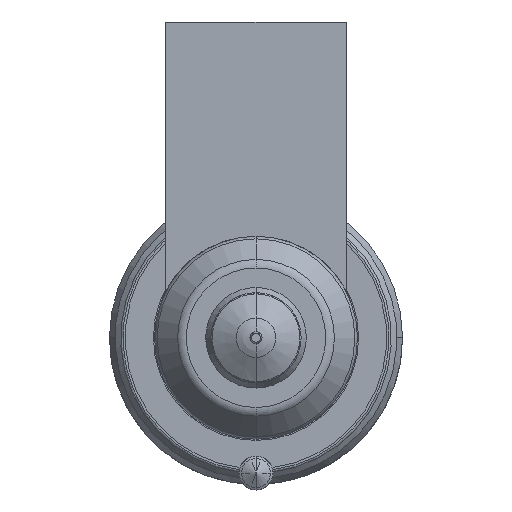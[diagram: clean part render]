
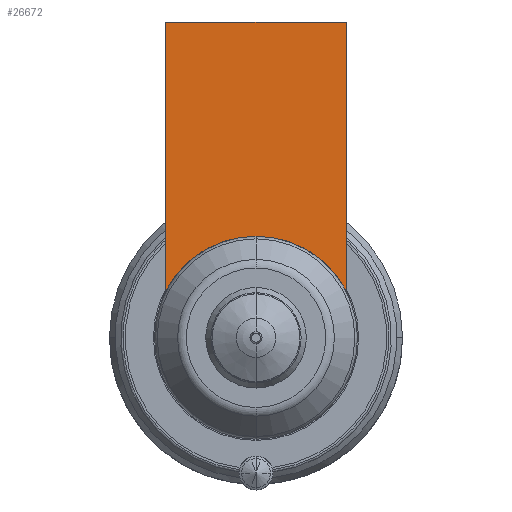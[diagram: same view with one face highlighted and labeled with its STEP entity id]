
A CAD part, front view. The second image highlights one B-rep face of the part: STEP entity #26672.
In plain terms, the highlighted planar face has unit normal (0, -1, 0).
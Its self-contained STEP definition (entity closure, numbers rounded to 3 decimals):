
#25785=DIRECTION('',(1.,0.,0.));
#25786=VECTOR('',#25785,16.);
#25787=CARTESIAN_POINT('',(-8.,-54.,28.));
#25788=LINE('',#25787,#25786);
#25793=CARTESIAN_POINT('',(0.,-54.,0.));
#25794=DIRECTION('',(0.,-1.,0.));
#25795=DIRECTION('',(0.889,0.,0.458));
#25796=AXIS2_PLACEMENT_3D('',#25793,#25794,#25795);
#25801=CARTESIAN_POINT('',(0.,-54.,0.));
#25802=DIRECTION('',(0.,-1.,0.));
#25803=DIRECTION('',(0.,0.,1.));
#25804=AXIS2_PLACEMENT_3D('',#25801,#25802,#25803);
#25830=DIRECTION('',(0.,0.,-1.));
#25831=VECTOR('',#25830,23.877);
#25832=CARTESIAN_POINT('',(-8.,-54.,28.));
#25833=LINE('',#25832,#25831);
#26516=DIRECTION('',(0.,0.,-1.));
#26517=VECTOR('',#26516,23.877);
#26518=CARTESIAN_POINT('',(8.,-54.,28.));
#26519=LINE('',#26518,#26517);
#26569=CARTESIAN_POINT('',(-8.,-54.,28.));
#26570=VERTEX_POINT('',#26569);
#26575=CARTESIAN_POINT('',(8.,-54.,28.));
#26576=VERTEX_POINT('',#26575);
#26579=CARTESIAN_POINT('',(-8.,-54.,4.123));
#26580=VERTEX_POINT('',#26579);
#26583=CARTESIAN_POINT('',(8.,-54.,4.123));
#26584=VERTEX_POINT('',#26583);
#26653=CARTESIAN_POINT('',(0.,-54.,9.));
#26654=VERTEX_POINT('',#26653);
#26655=CARTESIAN_POINT('',(0.,-54.,9.));
#26656=DIRECTION('',(0.,1.,0.));
#26657=DIRECTION('',(0.,0.,-1.));
#26658=AXIS2_PLACEMENT_3D('',#26655,#26656,#26657);
#26659=PLANE('',#26658);
#26661=ORIENTED_EDGE('',*,*,#26660,.F.);
#26663=ORIENTED_EDGE('',*,*,#26662,.T.);
#26665=ORIENTED_EDGE('',*,*,#26664,.T.);
#26667=ORIENTED_EDGE('',*,*,#26666,.T.);
#26669=ORIENTED_EDGE('',*,*,#26668,.T.);
#26670=EDGE_LOOP('',(#26661,#26663,#26665,#26667,#26669));
#26671=FACE_OUTER_BOUND('',#26670,.F.);
#26672=ADVANCED_FACE('',(#26671),#26659,.F.);
#25797=CIRCLE('',#25796,9.);
#25805=CIRCLE('',#25804,9.);
#26660=EDGE_CURVE('',#26570,#26580,#25833,.T.);
#26662=EDGE_CURVE('',#26570,#26576,#25788,.T.);
#26664=EDGE_CURVE('',#26576,#26584,#26519,.T.);
#26666=EDGE_CURVE('',#26584,#26654,#25797,.T.);
#26668=EDGE_CURVE('',#26654,#26580,#25805,.T.);
